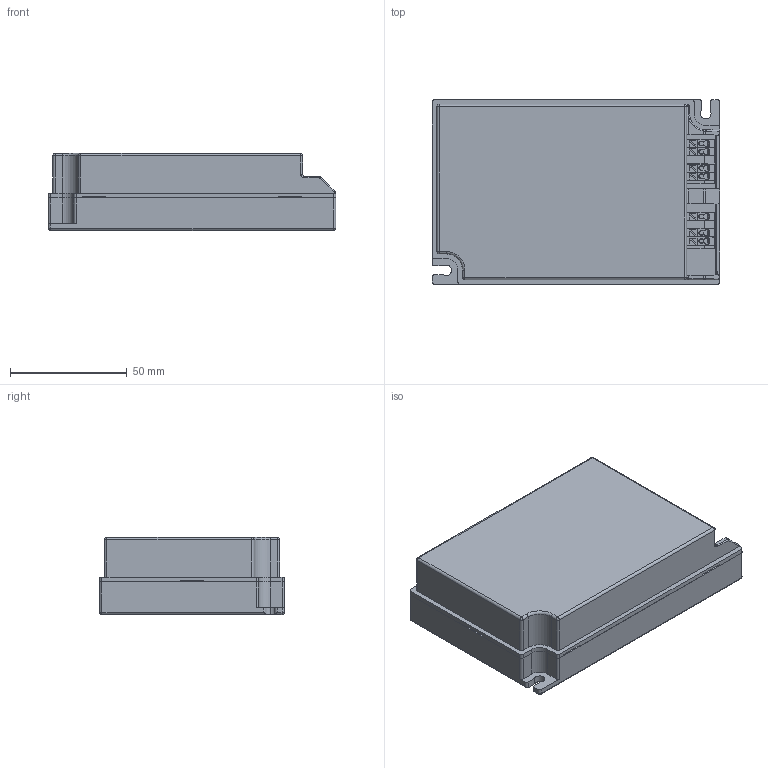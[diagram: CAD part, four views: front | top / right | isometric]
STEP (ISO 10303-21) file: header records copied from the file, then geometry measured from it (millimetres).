
FILE_DESCRIPTION (( 'STEP AP214' ), '1' );
FILE_NAME ('4222576swm000.step', '2021-08-24T14:42:37', ( 'Windows User' ), ( '' ), 'SwSTEP 2.0', 'SolidWorks 2020', '' );
FILE_SCHEMA (( 'AUTOMOTIVE_DESIGN' ));
Length unit declared in the file: millimetre
Products named in the file (1): 4222576swm000
Bounding box: 123 x 79 x 33 mm (x, y, z)
Volume: 281641 mm3; surface area: 55822 mm2
Topology: 2 solids, 2 shells, 565 faces, 1476 edges, 910 vertices
Faces by surface type: plane 411, cylinder 99, cone 28, bspline 15, torus 7, sphere 5
Entity records: 23401 total; most frequent: CARTESIAN_POINT 3647, ORIENTED_EDGE 2926, DIRECTION 2679, EDGE_CURVE 1463, VECTOR 1155, LINE 1155, VERTEX_POINT 910, AXIS2_PLACEMENT_3D 762
